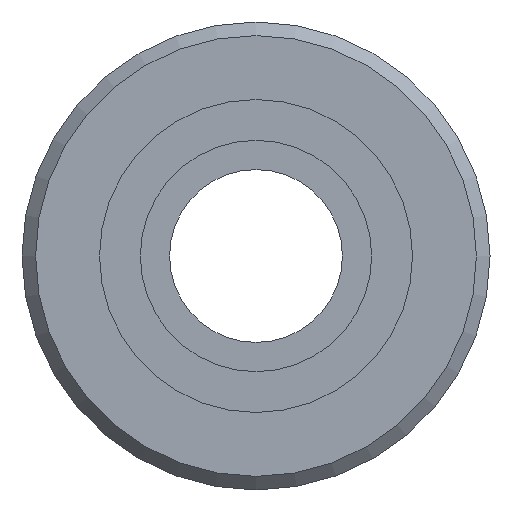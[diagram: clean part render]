
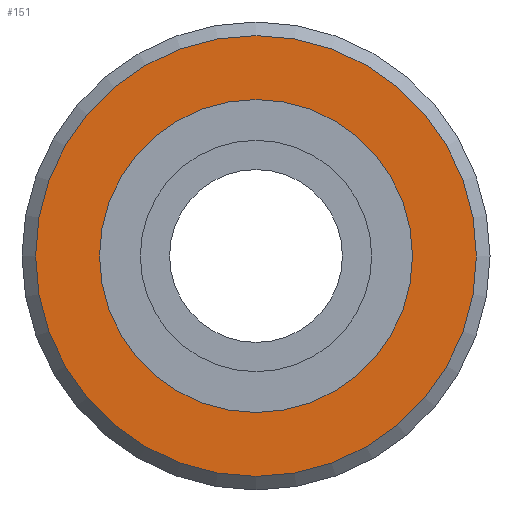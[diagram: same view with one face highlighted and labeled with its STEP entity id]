
A CAD part, left-side view. The second image highlights one B-rep face of the part: STEP entity #151.
In plain terms, the highlighted planar face has unit normal (-1, 0, 0).
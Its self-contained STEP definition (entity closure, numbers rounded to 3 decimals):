
#17=PLANE($,#173);
#28=FACE_BOUND($,#55,.T.);
#29=FACE_BOUND($,#56,.T.);
#55=EDGE_LOOP($,(#115));
#56=EDGE_LOOP($,(#116));
#71=CIRCLE($,#167,1.461);
#74=CIRCLE($,#174,2.057);
#83=VERTEX_POINT($,#246);
#86=VERTEX_POINT($,#256);
#95=EDGE_CURVE($,#83,#83,#71,.T.);
#98=EDGE_CURVE($,#86,#86,#74,.T.);
#115=ORIENTED_EDGE($,*,*,#95,.T.);
#116=ORIENTED_EDGE($,*,*,#98,.F.);
#151=ADVANCED_FACE($,(#28,#29),#17,.T.);
#167=AXIS2_PLACEMENT_3D($,#247,#200,#201);
#173=AXIS2_PLACEMENT_3D($,#255,#212,#213);
#174=AXIS2_PLACEMENT_3D($,#257,#214,#215);
#200=DIRECTION('center_axis',(1.,0.,0.));
#201=DIRECTION('ref_axis',(0.,1.,0.));
#212=DIRECTION('center_axis',(-1.,0.,0.));
#213=DIRECTION('ref_axis',(0.,0.,1.));
#214=DIRECTION('center_axis',(1.,0.,0.));
#215=DIRECTION('ref_axis',(0.,-1.,0.));
#246=CARTESIAN_POINT('',(-7.981,0.118,0.));
#247=CARTESIAN_POINT('Origin',(-7.981,-1.342,0.));
#255=CARTESIAN_POINT('Origin',(-7.981,-0.25,0.));
#256=CARTESIAN_POINT('',(-7.981,0.715,0.));
#257=CARTESIAN_POINT('Origin',(-7.981,-1.342,0.));
